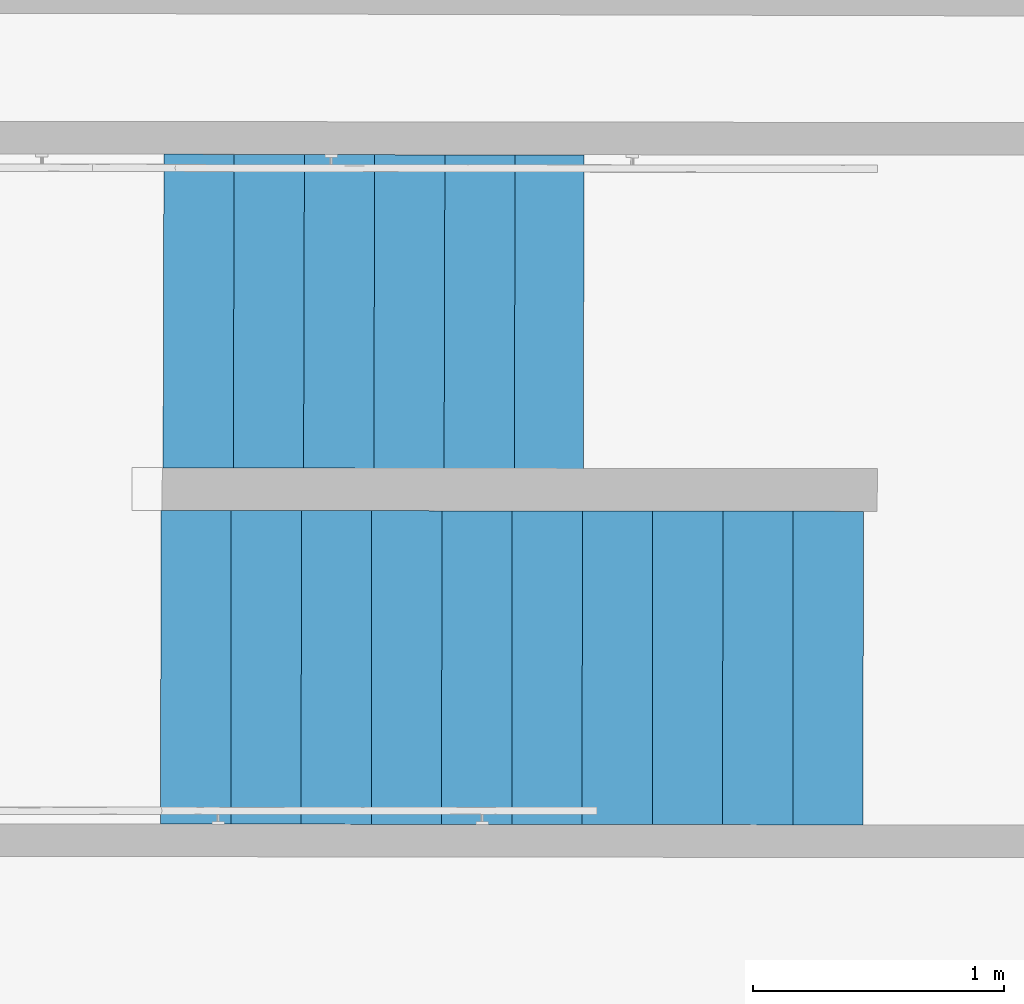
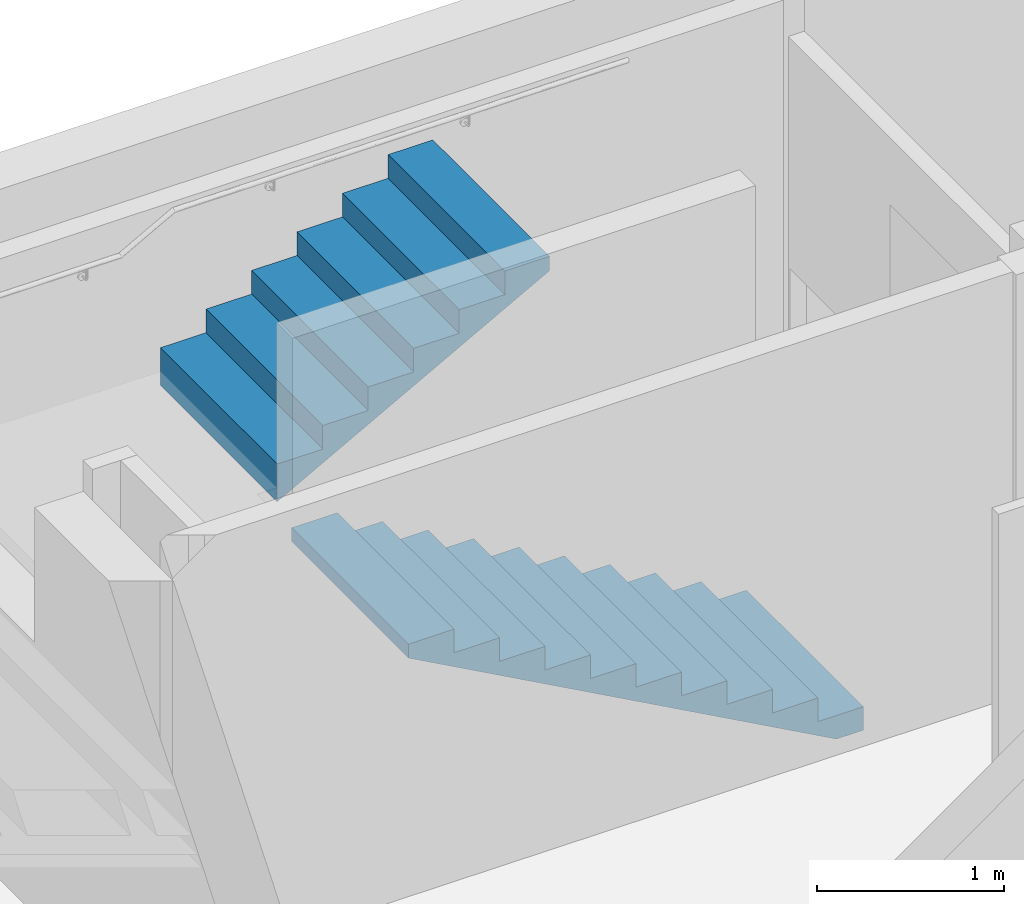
# One storey, part 20 of 24: 2 stair flights, 1 element without a shape of its own.
"""IFC2X3 building model written with IfcOpenShell, lengths in metres."""

from ifc_helpers import new_model, entity, si_unit, converted_unit, derived_unit, direction, frame, origin, place, context, subcontext, project, spatial, faceted_brep, material, type_object, element, aggregate, save


model = new_model("IFC2X3")

# Units and contexts
model_context = context("Model", 3, precision=1e-05, world=origin(), true_north=direction((6.123233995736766e-17, 1.0)))
body_context = subcontext(model_context, "Body", "Model", "MODEL_VIEW")
ifc_project = project(units=[si_unit("LENGTHUNIT", "METRE"), si_unit("AREAUNIT", "SQUARE_METRE"), converted_unit("PLANEANGLEUNIT", "DEGREE", entity("IfcPlaneAngleMeasure", 0.017453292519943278), si_unit("PLANEANGLEUNIT", "RADIAN"), dimensions=[0, 0, 0, 0, 0, 0, 0]), derived_unit("THERMALTRANSMITTANCEUNIT", [(si_unit("MASSUNIT", "GRAM", prefix="KILO"), 1), (si_unit("THERMODYNAMICTEMPERATUREUNIT", "KELVIN"), -1), (si_unit("TIMEUNIT", "SECOND"), -3)])], contexts=[model_context])

# Site, building, storey
site_placement = place(None, frame((1253.6752467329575, 2072.143113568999, 91.49999999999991), z_axis=(0.0, 0.0, 1.0), x_axis=(0.7237211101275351, 0.6900925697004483, 0.0)))
site = spatial("IfcSite", under=ifc_project, at=site_placement, Name="Surface", CompositionType="ELEMENT")
building_placement = place(site_placement, origin())
building = spatial("IfcBuilding", under=site, at=building_placement, CompositionType="ELEMENT")
storey_placement = place(building_placement, frame((0.0, 0.0, -7.049999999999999)))
storey = spatial("IfcBuildingStorey", under=building, at=storey_placement, Name="R-1", CompositionType="ELEMENT", Elevation=-7.049999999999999)

# Stair, stair flights
type_product = type_object("IfcTypeProduct", Name="Escalier coulé sur place:Monobloc")
stair_placement = place(storey_placement, origin())
stair = element("IfcStair", 1, at=stair_placement, inside=storey, type_object=type_product, Name="Escalier coulé sur place:Escalier", ObjectType="Escalier coulé sur place:Monobloc", ShapeType="NOTDEFINED")
ifc_material = material(Name="<Unnamed>")
stair_flight_type = type_object("IfcStairFlightType", Name="Volée monobloc:Nez de marche 5 mm", PredefinedType="STRAIGHT")
stair_flight_1_placement = place(stair_placement, frame((190.53773070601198, -2.334764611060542, 0.0)))
stair_flight_1 = element("IfcStairFlight", 2, at=stair_flight_1_placement, type_object=stair_flight_type, material=ifc_material, Name="Escalier coulé sur place:Escalier:4134805 Run 1", ObjectType="Volée monobloc:Nez de marche 5 mm", NumberOfRiser=11, NumberOfTreads=10, RiserHeight=0.5048848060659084, TreadLength=0.9186351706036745, context=body_context, shape_type="Brep", body=[
    faceted_brep([(1.8216329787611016, 0.19347546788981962, 0.8838888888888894), (2.0240366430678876, 0.0, 0.8838888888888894), (2.8877664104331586, 0.9035877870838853, 0.8838888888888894), (2.6853627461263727, 1.0970632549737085, 0.8838888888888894), (1.8216329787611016, 0.1934754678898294, 0.7926024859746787), (1.903971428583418, 0.1147690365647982, 0.7299999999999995), (2.0240366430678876, 0.0, 0.7299999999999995), (2.8877664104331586, 0.9035877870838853, 0.7299999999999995), (2.7677011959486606, 1.0183568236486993, 0.7299999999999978), (2.6853627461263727, 1.0970632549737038, 0.7926024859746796), (1.6192293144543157, 0.386950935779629, 1.0377777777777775), (1.8216329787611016, 0.1934754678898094, 1.0377777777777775), (2.6853627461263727, 1.0970632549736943, 1.0377777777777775), (2.482959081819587, 1.2905387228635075, 1.0377777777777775), (1.6192293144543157, 0.38695093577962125, 0.9464913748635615), (2.482959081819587, 1.290538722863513, 0.946491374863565), (1.4168256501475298, 0.5804264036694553, 1.1916666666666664), (1.6192293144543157, 0.3869509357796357, 1.1916666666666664), (2.482959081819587, 1.290538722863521, 1.1916666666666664), (2.2805554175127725, 1.4840141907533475, 1.1916666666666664), (1.4168256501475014, 0.5804264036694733, 1.100380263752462), (2.2805554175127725, 1.4840141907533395, 1.1003802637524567), (1.214421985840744, 0.7739018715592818, 1.3455555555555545), (1.4168256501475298, 0.5804264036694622, 1.3455555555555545), (2.2805554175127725, 1.4840141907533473, 1.3455555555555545), (2.0781517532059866, 1.677489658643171, 1.3455555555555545), (1.214421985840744, 0.7739018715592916, 1.2542691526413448), (2.0781517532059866, 1.6774896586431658, 1.2542691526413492), (1.0120183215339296, 0.9673773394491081, 1.4994444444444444), (1.214421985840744, 0.7739018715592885, 1.4994444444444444), (2.0781517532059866, 1.6774896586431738, 1.4994444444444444), (1.8757480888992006, 1.8709651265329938, 1.4994444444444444), (1.0120183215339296, 0.9673773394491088, 1.4081580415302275), (1.8757480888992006, 1.8709651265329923, 1.4081580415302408), (0.8096146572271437, 1.1608528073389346, 1.6533333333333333), (1.0120183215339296, 0.967377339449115, 1.6533333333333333), (1.8757480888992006, 1.870965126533, 1.6533333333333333), (1.6733444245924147, 2.064440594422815, 1.6533333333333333), (0.8096146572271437, 1.160852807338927, 1.5620469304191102), (1.6733444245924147, 2.064440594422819, 1.5620469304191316), (0.6072109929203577, 1.3543282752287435, 1.8072222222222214), (0.8096146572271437, 1.160852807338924, 1.8072222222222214), (1.6733444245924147, 2.064440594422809, 1.8072222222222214), (1.4709407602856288, 2.257916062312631, 1.8072222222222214), (0.6072109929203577, 1.354328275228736, 1.7159358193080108), (1.4709407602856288, 2.2579160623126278, 1.7159358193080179), (0.4048073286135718, 1.54780374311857, 1.9611111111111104), (0.6072109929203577, 1.3543282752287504, 1.9611111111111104), (1.4709407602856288, 2.2579160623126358, 1.9611111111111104), (1.268537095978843, 2.451391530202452, 1.9611111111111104), (0.4048073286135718, 1.5478037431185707, 1.8698247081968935), (1.268537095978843, 2.451391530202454, 1.8698247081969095), (0.2024036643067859, 1.7412792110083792, 2.1149999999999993), (0.4048073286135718, 1.5478037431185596, 2.1149999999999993), (1.268537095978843, 2.4513915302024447, 2.1149999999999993), (1.0661334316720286, 2.6448669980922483, 2.1149999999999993), (0.2024036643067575, 1.741279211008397, 2.023713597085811), (1.0661334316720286, 2.6448669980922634, 2.023713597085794), (0.0, 1.9347546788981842, 2.2688888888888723), (0.0036143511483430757, 1.9312997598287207, 2.2688888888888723), (0.2024036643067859, 1.7412792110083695, 2.2688888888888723), (1.0661334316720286, 2.6448669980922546, 2.2688888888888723), (0.8673441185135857, 2.8348875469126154, 2.2688888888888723), (0.8637297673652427, 2.8383424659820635, 2.2688888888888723), (0.0, 1.9347546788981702, 2.177602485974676), (0.0036143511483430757, 1.9312997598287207, 2.174854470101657), (0.8673441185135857, 2.8348875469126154, 2.1748544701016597), (0.8637297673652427, 2.8383424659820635, 2.1776024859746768)], [[[0, 1, 2, 3]], [[1, 0, 4, 5, 6]], [[2, 1, 6, 7]], [[3, 2, 7, 8, 9]], [[10, 11, 12, 13]], [[11, 10, 14, 4, 0]], [[0, 3, 12, 11]], [[13, 12, 3, 9, 15]], [[16, 17, 18, 19]], [[17, 16, 20, 14, 10]], [[10, 13, 18, 17]], [[19, 18, 13, 15, 21]], [[22, 23, 24, 25]], [[23, 22, 26, 20, 16]], [[16, 19, 24, 23]], [[25, 24, 19, 21, 27]], [[28, 29, 30, 31]], [[29, 28, 32, 26, 22]], [[22, 25, 30, 29]], [[31, 30, 25, 27, 33]], [[34, 35, 36, 37]], [[35, 34, 38, 32, 28]], [[28, 31, 36, 35]], [[37, 36, 31, 33, 39]], [[40, 41, 42, 43]], [[41, 40, 44, 38, 34]], [[34, 37, 42, 41]], [[43, 42, 37, 39, 45]], [[46, 47, 48, 49]], [[47, 46, 50, 44, 40]], [[40, 43, 48, 47]], [[49, 48, 43, 45, 51]], [[52, 53, 54, 55]], [[53, 52, 56, 50, 46]], [[46, 49, 54, 53]], [[55, 54, 49, 51, 57]], [[58, 59, 60, 61, 62, 63]], [[59, 58, 64, 65]], [[60, 59, 65, 56, 52]], [[52, 55, 61, 60]], [[62, 61, 55, 57, 66]], [[63, 62, 66, 67]], [[58, 63, 67, 64]], [[7, 6, 5, 8]], [[8, 5, 4, 14, 20, 26, 32, 38, 44, 50, 56, 65, 64, 67, 66, 57, 51, 45, 39, 33, 27, 21, 15, 9]]]),
])
stair_flight_2_placement = place(stair_placement, frame((191.52497752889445, -0.5382530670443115, 0.0)))
stair_flight_2 = element("IfcStairFlight", 3, at=stair_flight_2_placement, type_object=stair_flight_type, material=ifc_material, Name="Escalier coulé sur place:Escalier:4134805 Run 2", ObjectType="Volée monobloc:Nez de marche 5 mm", NumberOfRiser=7, NumberOfTreads=6, RiserHeight=0.5048848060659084, TreadLength=0.9186351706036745, context=body_context, shape_type="Brep", body=[
    faceted_brep([(1.0671071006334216, 1.8677070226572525, 2.5766666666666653), (0.8649691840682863, 2.0614601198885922, 2.5766666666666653), (0.0, 1.159058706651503, 2.5766666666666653), (0.2021379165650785, 0.9653056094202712, 2.5766666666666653), (1.0671071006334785, 1.8677070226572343, 2.485380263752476), (0.8649691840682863, 2.0614601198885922, 2.331491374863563), (0.8649691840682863, 2.0614601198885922, 2.4227777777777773), (0.0, 1.159058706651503, 2.3314913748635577), (0.0, 1.159058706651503, 2.4227777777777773), (0.20213791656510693, 0.965305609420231, 2.4853802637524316), (1.2692450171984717, 1.673953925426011, 2.7305555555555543), (1.0671071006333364, 1.8677070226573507, 2.7305555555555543), (0.2021379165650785, 0.9653056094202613, 2.7305555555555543), (0.40427583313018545, 0.7715525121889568, 2.7305555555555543), (1.2692450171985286, 1.6739539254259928, 2.6392691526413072), (0.4042758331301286, 0.7715525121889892, 2.6392691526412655), (1.471382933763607, 1.4802008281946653, 2.8844444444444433), (1.2692450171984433, 1.6739539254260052, 2.8844444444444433), (0.40427583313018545, 0.7715525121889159, 2.8844444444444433), (0.6064137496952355, 0.5777994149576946, 2.8844444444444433), (1.4713829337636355, 1.4802008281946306, 2.7931580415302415), (0.6064137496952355, 0.5777994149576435, 2.793158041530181), (1.6735208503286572, 1.286447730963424, 3.038333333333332), (1.4713829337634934, 1.4802008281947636, 3.038333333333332), (0.6064137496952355, 0.5777994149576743, 3.038333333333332), (0.8085516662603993, 0.3840463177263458, 3.038333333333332), (1.6735208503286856, 1.2864477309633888, 2.9470469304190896), (0.808551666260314, 0.38404631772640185, 2.947046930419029), (1.875658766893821, 1.0926946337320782, 3.192222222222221), (1.6735208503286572, 1.2864477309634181, 3.192222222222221), (0.8085516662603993, 0.38404631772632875, 3.192222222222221), (1.0106895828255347, 0.19029322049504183, 3.192222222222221), (1.8756587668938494, 1.0926946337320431, 3.1009358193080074), (1.0106895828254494, 0.19029322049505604, 3.1009358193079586), (2.074187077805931, 0.9024014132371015, 3.346111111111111), (1.8756587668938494, 1.092694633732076, 3.346111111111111), (1.0106895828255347, 0.19029322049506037, 3.346111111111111), (1.2092178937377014, 0.0, 3.346111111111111), (2.0741870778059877, 0.9024014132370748, 3.252076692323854), (1.2092178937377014, 0.0, 3.252076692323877)], [[[0, 1, 2, 3]], [[1, 0, 4, 5, 6]], [[2, 1, 6, 5, 7, 8]], [[3, 2, 8, 7, 9]], [[10, 11, 12, 13]], [[11, 10, 14, 4, 0]], [[12, 11, 0, 3]], [[13, 12, 3, 9, 15]], [[16, 17, 18, 19]], [[17, 16, 20, 14, 10]], [[18, 17, 10, 13]], [[19, 18, 13, 15, 21]], [[22, 23, 24, 25]], [[23, 22, 26, 20, 16]], [[24, 23, 16, 19]], [[25, 24, 19, 21, 27]], [[28, 29, 30, 31]], [[29, 28, 32, 26, 22]], [[30, 29, 22, 25]], [[31, 30, 25, 27, 33]], [[34, 35, 36, 37]], [[35, 34, 38, 32, 28]], [[36, 35, 28, 31]], [[37, 36, 31, 33, 39]], [[34, 37, 39, 38]], [[5, 4, 14, 20, 26, 32, 38, 39, 33, 27, 21, 15, 9, 7]]]),
])
aggregate(stair, [stair_flight_1, stair_flight_2])

save(model, "model.ifc")
